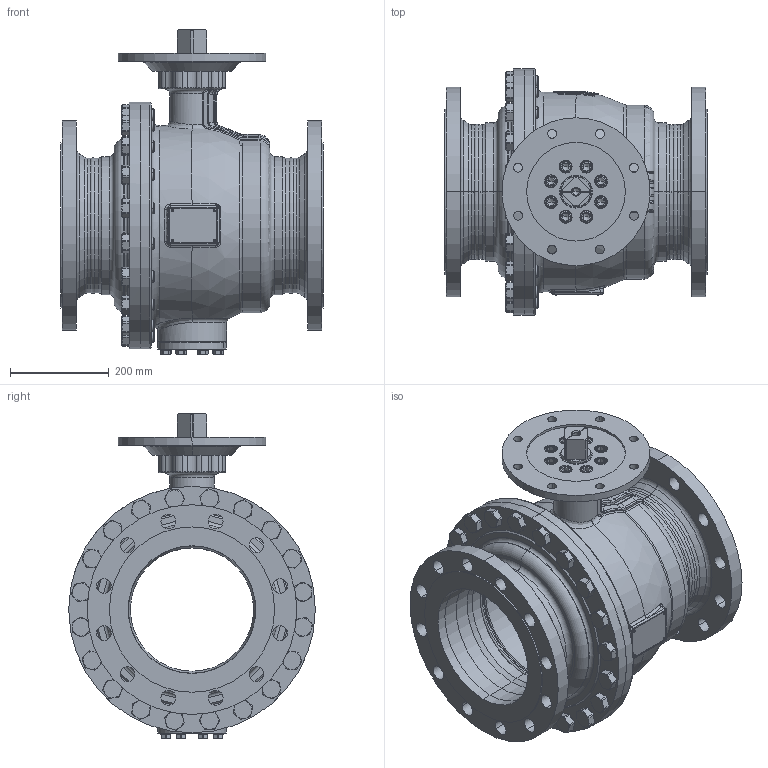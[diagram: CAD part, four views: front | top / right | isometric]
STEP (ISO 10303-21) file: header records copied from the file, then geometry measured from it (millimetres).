
FILE_DESCRIPTION((''),'2;1');
FILE_NAME('KHI-F_250_PN025-F25-4_SW0001','2026-02-05T14:16:10',('fischerkl'),('KLINGER'),'CREO PARAMETRIC BY PTC INC, 2023014','CREO PARAMETRIC BY PTC INC, 2023014','');
FILE_SCHEMA(('CONFIG_CONTROL_DESIGN'));
Products named in the file (1): KHI-F_250_PN025-F25-4_SW0001
Bounding box: 533 x 500 x 657.8 mm (x, y, z)
Volume: 23871914.8 mm3; surface area: 3541238.3 mm2
Topology: 1 solids, 4 shells, 3398 faces, 8637 edges, 5388 vertices
Faces by surface type: plane 1727, cylinder 806, cone 416, torus 310, bspline 97, sphere 42
Entity records: 139500 total; most frequent: CARTESIAN_POINT 58428, ORIENTED_EDGE 17198, DIRECTION 16700, EDGE_CURVE 8599, AXIS2_PLACEMENT_3D 6341, VERTEX_POINT 5388, VECTOR 4018, LINE 4018
